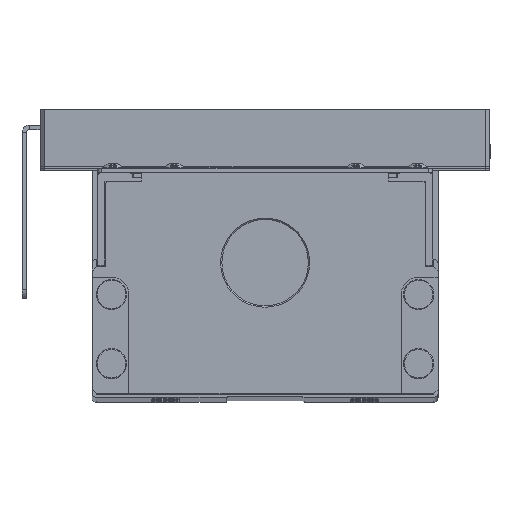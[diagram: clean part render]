
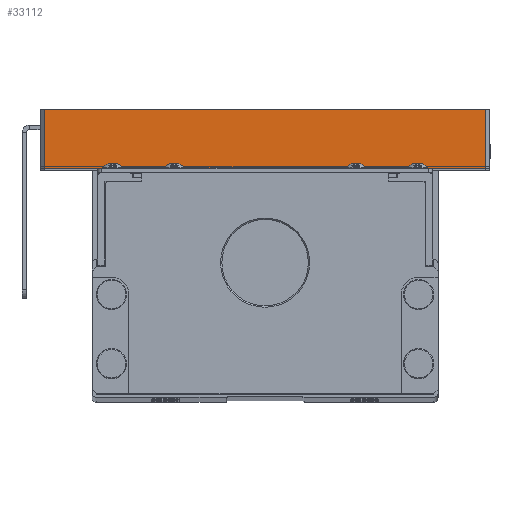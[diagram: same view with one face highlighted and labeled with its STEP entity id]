
A CAD part, top view. The second image highlights one B-rep face of the part: STEP entity #33112.
In plain terms, the highlighted planar face has unit normal (0, 0, 1).
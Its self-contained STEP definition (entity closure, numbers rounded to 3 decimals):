
#5032 = PLANE ( 'NONE',  #37630 ) ;
#5562 = VERTEX_POINT ( 'NONE', #41323 ) ;
#5898 = DIRECTION ( 'NONE',  ( 0., 1., 0. ) ) ;
#12680 = LINE ( 'NONE', #48330, #28629 ) ;
#13111 = EDGE_CURVE ( 'NONE', #47282, #29223, #54841, .T. ) ;
#13365 = LINE ( 'NONE', #56424, #14304 ) ;
#13667 = ORIENTED_EDGE ( 'NONE', *, *, #13111, .T. ) ;
#14304 = VECTOR ( 'NONE', #49021, 1000. ) ;
#17222 = FACE_OUTER_BOUND ( 'NONE', #46979, .T. ) ;
#20203 = ORIENTED_EDGE ( 'NONE', *, *, #54000, .F. ) ;
#21009 = CARTESIAN_POINT ( 'NONE',  ( -51., 54.3, 50. ) ) ;
#22178 = LINE ( 'NONE', #21009, #68464 ) ;
#22280 = EDGE_CURVE ( 'NONE', #47282, #64505, #12680, .T. ) ;
#23138 = CARTESIAN_POINT ( 'NONE',  ( 0., 68., 50. ) ) ;
#23302 = CARTESIAN_POINT ( 'NONE',  ( -51., 54.3, 50. ) ) ;
#23699 = CARTESIAN_POINT ( 'NONE',  ( 51., 54.3, 50. ) ) ;
#26482 = VECTOR ( 'NONE', #5898, 1000. ) ;
#27021 = ORIENTED_EDGE ( 'NONE', *, *, #27965, .T. ) ;
#27965 = EDGE_CURVE ( 'NONE', #5562, #64505, #22178, .T. ) ;
#28629 = VECTOR ( 'NONE', #60446, 1000. ) ;
#29223 = VERTEX_POINT ( 'NONE', #36942 ) ;
#33112 = ADVANCED_FACE ( 'NONE', ( #17222 ), #5032, .T. ) ;
#36942 = CARTESIAN_POINT ( 'NONE',  ( 51., 68., 50. ) ) ;
#37630 = AXIS2_PLACEMENT_3D ( 'NONE', #23138, #41089, #53978 ) ;
#41089 = DIRECTION ( 'NONE',  ( 0., 0., 1. ) ) ;
#41323 = CARTESIAN_POINT ( 'NONE',  ( -51., 68., 50. ) ) ;
#46979 = EDGE_LOOP ( 'NONE', ( #69860, #13667, #20203, #27021 ) ) ;
#47282 = VERTEX_POINT ( 'NONE', #23699 ) ;
#48330 = CARTESIAN_POINT ( 'NONE',  ( -52., 54.3, 50. ) ) ;
#49021 = DIRECTION ( 'NONE',  ( 1., 0., 0. ) ) ;
#52262 = DIRECTION ( 'NONE',  ( 0., -1., 0. ) ) ;
#53978 = DIRECTION ( 'NONE',  ( 1., 0., 0. ) ) ;
#54000 = EDGE_CURVE ( 'NONE', #5562, #29223, #13365, .T. ) ;
#54070 = CARTESIAN_POINT ( 'NONE',  ( 51., 68., 50. ) ) ;
#54841 = LINE ( 'NONE', #54070, #26482 ) ;
#56424 = CARTESIAN_POINT ( 'NONE',  ( 52., 68., 50. ) ) ;
#60446 = DIRECTION ( 'NONE',  ( -1., 0., 0. ) ) ;
#64505 = VERTEX_POINT ( 'NONE', #23302 ) ;
#68464 = VECTOR ( 'NONE', #52262, 1000. ) ;
#69860 = ORIENTED_EDGE ( 'NONE', *, *, #22280, .F. ) ;
